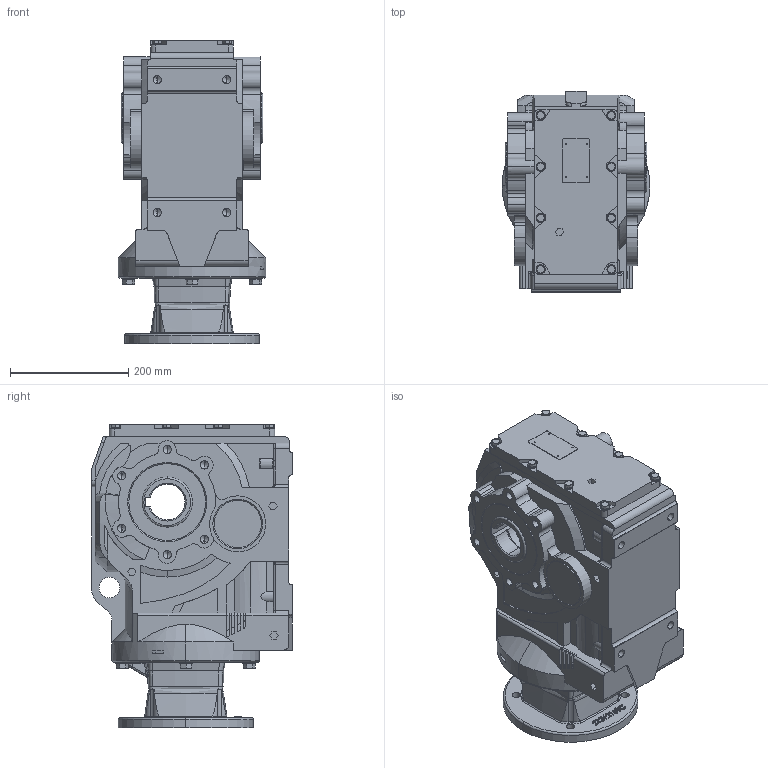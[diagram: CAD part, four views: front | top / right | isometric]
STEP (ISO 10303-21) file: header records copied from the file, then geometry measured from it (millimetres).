
FILE_DESCRIPTION (( 'STEP AP203' ), '1' );
FILE_NAME ('KAN87-213-5TC.STEP', '2022-04-09T03:23:33', ( 'user1' ), ( '' ), 'SwSTEP 2.0', 'SolidWorks 2012', '' );
FILE_SCHEMA (( 'CONFIG_CONTROL_DESIGN' ));
Length unit declared in the file: millimetre
Products named in the file (1): KAN87-213-5TC
Bounding box: 250 x 340 x 514.5 mm (x, y, z)
Volume: 23333817.7 mm3; surface area: 820901.7 mm2
Topology: 1 solids, 1 shells, 1372 faces, 3683 edges, 2352 vertices
Faces by surface type: plane 609, cylinder 432, bspline 149, cone 146, torus 36
Entity records: 54257 total; most frequent: CARTESIAN_POINT 20762, ORIENTED_EDGE 7266, DIRECTION 6584, EDGE_CURVE 3633, VERTEX_POINT 2352, AXIS2_PLACEMENT_3D 2319, LINE 1946, VECTOR 1946
